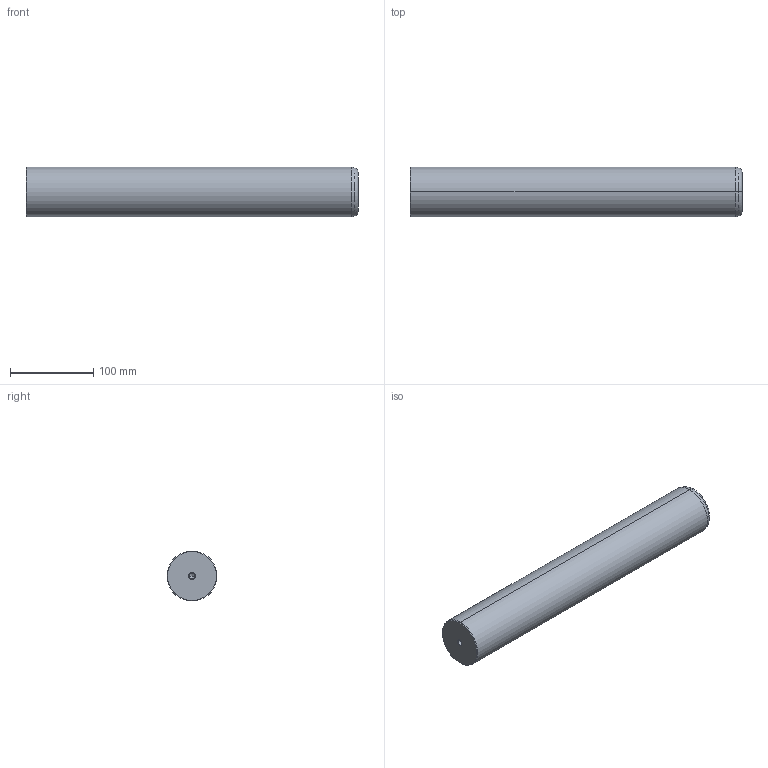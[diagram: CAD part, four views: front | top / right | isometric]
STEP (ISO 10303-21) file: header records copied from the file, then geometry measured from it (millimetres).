
FILE_DESCRIPTION(('CATIA V5 STEP Exchange'),'2;1');
FILE_NAME('C:\Users\Utente\Desktop\IO LAVORO\3D X SITO CF\X SITO\720\720-60x400.stp','2020-12-30T21:32:20+00:00',('none'),('none'),'CATIA Version 5 Release 20 GA (IN-10)','CATIA V5 STEP AP203','none');
FILE_SCHEMA(('CONFIG_CONTROL_DESIGN'));
Length unit declared in the file: millimetre
Products named in the file (1): 720-60x400
Bounding box: 400 x 60 x 60 mm (x, y, z)
Volume: 1127138.4 mm3; surface area: 81373.3 mm2
Topology: 1 solids, 1 shells, 22 faces, 62 edges, 40 vertices
Faces by surface type: cone 12, cylinder 6, plane 2, torus 2
Entity records: 806 total; most frequent: CARTESIAN_POINT 229, ORIENTED_EDGE 116, DIRECTION 93, EDGE_CURVE 58, AXIS2_PLACEMENT_3D 54, VERTEX_POINT 40, CIRCLE 31, EDGE_LOOP 24
